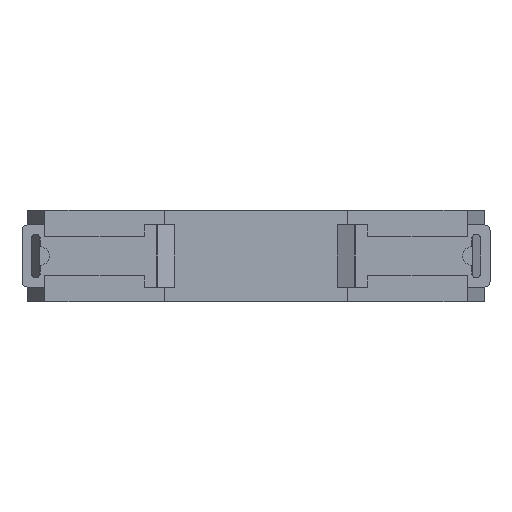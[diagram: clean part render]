
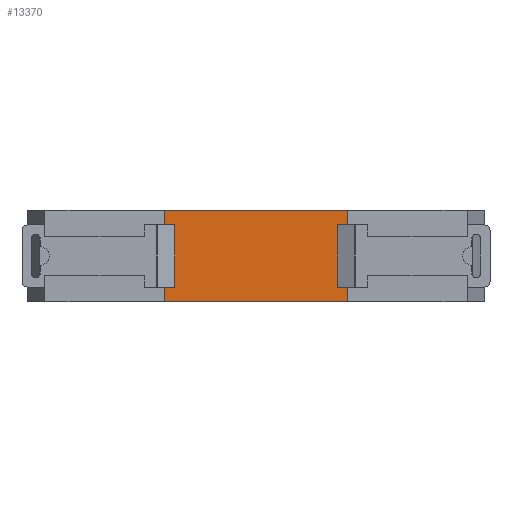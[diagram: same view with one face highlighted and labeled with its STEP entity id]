
A CAD part, left-side view. The second image highlights one B-rep face of the part: STEP entity #13370.
In plain terms, the highlighted planar face has unit normal (-1, 0, 0).
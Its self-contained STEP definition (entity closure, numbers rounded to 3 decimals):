
#88 = VECTOR ( 'NONE', #1068, 1000. ) ;
#718 = CARTESIAN_POINT ( 'NONE',  ( -60., -40.25, 18. ) ) ;
#807 = DIRECTION ( 'NONE',  ( 0., 0., -1. ) ) ;
#1045 = EDGE_CURVE ( 'NONE', #13275, #2086, #13184, .T. ) ;
#1068 = DIRECTION ( 'NONE',  ( 0., 0., -1. ) ) ;
#1627 = LINE ( 'NONE', #9864, #5085 ) ;
#1696 = PLANE ( 'NONE',  #6359 ) ;
#2086 = VERTEX_POINT ( 'NONE', #3719 ) ;
#2528 = CARTESIAN_POINT ( 'NONE',  ( -60., -4.25, 0. ) ) ;
#3050 = CARTESIAN_POINT ( 'NONE',  ( -60., -40.25, 18. ) ) ;
#3385 = EDGE_CURVE ( 'NONE', #3392, #13275, #9217, .T. ) ;
#3392 = VERTEX_POINT ( 'NONE', #9264 ) ;
#3568 = ORIENTED_EDGE ( 'NONE', *, *, #3385, .T. ) ;
#3719 = CARTESIAN_POINT ( 'NONE',  ( -60., -40.25, 0. ) ) ;
#4558 = DIRECTION ( 'NONE',  ( 0., -1., 0. ) ) ;
#4678 = ORIENTED_EDGE ( 'NONE', *, *, #5948, .F. ) ;
#4719 = DIRECTION ( 'NONE',  ( 0., -1., 0. ) ) ;
#5085 = VECTOR ( 'NONE', #4719, 1000. ) ;
#5090 = VECTOR ( 'NONE', #4558, 1000. ) ;
#5484 = CARTESIAN_POINT ( 'NONE',  ( -60., -4.25, 0. ) ) ;
#5831 = CARTESIAN_POINT ( 'NONE',  ( -60., -4.25, 18. ) ) ;
#5882 = DIRECTION ( 'NONE',  ( 0., 1., 0. ) ) ;
#5948 = EDGE_CURVE ( 'NONE', #9101, #2086, #11785, .T. ) ;
#6359 = AXIS2_PLACEMENT_3D ( 'NONE', #5831, #8992, #5882 ) ;
#6443 = VECTOR ( 'NONE', #807, 1000. ) ;
#7675 = ORIENTED_EDGE ( 'NONE', *, *, #9592, .F. ) ;
#8992 = DIRECTION ( 'NONE',  ( 1., 0., 0. ) ) ;
#9101 = VERTEX_POINT ( 'NONE', #718 ) ;
#9142 = FACE_OUTER_BOUND ( 'NONE', #13164, .T. ) ;
#9217 = LINE ( 'NONE', #13437, #6443 ) ;
#9264 = CARTESIAN_POINT ( 'NONE',  ( -60., -4.25, 18. ) ) ;
#9592 = EDGE_CURVE ( 'NONE', #3392, #9101, #1627, .T. ) ;
#9864 = CARTESIAN_POINT ( 'NONE',  ( -60., -4.25, 18. ) ) ;
#10109 = ORIENTED_EDGE ( 'NONE', *, *, #1045, .T. ) ;
#11785 = LINE ( 'NONE', #3050, #88 ) ;
#13164 = EDGE_LOOP ( 'NONE', ( #10109, #4678, #7675, #3568 ) ) ;
#13184 = LINE ( 'NONE', #5484, #5090 ) ;
#13275 = VERTEX_POINT ( 'NONE', #2528 ) ;
#13370 = ADVANCED_FACE ( 'NONE', ( #9142 ), #1696, .F. ) ;
#13437 = CARTESIAN_POINT ( 'NONE',  ( -60., -4.25, 18. ) ) ;
